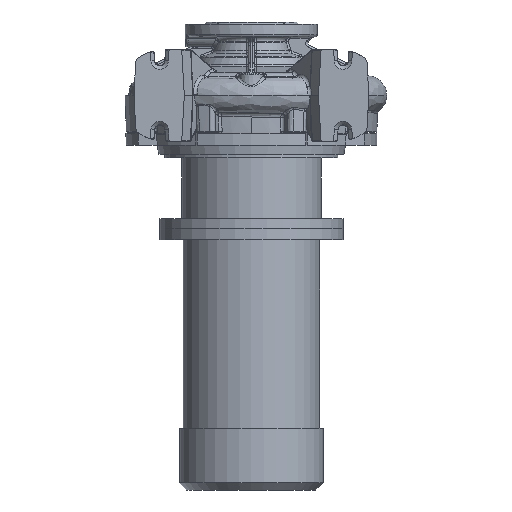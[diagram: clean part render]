
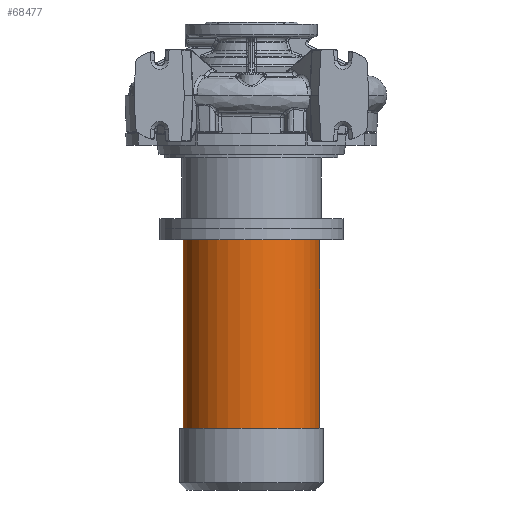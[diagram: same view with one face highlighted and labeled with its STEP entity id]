
A CAD part, front view. The second image highlights one B-rep face of the part: STEP entity #68477.
In plain terms, the highlighted cylindrical face has radius 93 mm (diameter 186 mm), a partial arc.
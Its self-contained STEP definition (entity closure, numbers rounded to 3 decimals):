
#642 = ORIENTED_EDGE ( 'NONE', *, *, #75928, .T. ) ;
#837 = DIRECTION ( 'NONE',  ( -1., 0., 0. ) ) ;
#1803 = VERTEX_POINT ( 'NONE', #12281 ) ;
#3040 = DIRECTION ( 'NONE',  ( 0., 0., -1. ) ) ;
#9452 = CARTESIAN_POINT ( 'NONE',  ( -93., 0., -538. ) ) ;
#9533 = VERTEX_POINT ( 'NONE', #77382 ) ;
#10904 = CARTESIAN_POINT ( 'NONE',  ( -93., 0., -197. ) ) ;
#12281 = CARTESIAN_POINT ( 'NONE',  ( -93., 0., -454. ) ) ;
#14822 = AXIS2_PLACEMENT_3D ( 'NONE', #77968, #15788, #837 ) ;
#15788 = DIRECTION ( 'NONE',  ( 0., 0., -1. ) ) ;
#16804 = CIRCLE ( 'NONE', #18640, 93. ) ;
#17523 = CYLINDRICAL_SURFACE ( 'NONE', #53095, 93. ) ;
#18640 = AXIS2_PLACEMENT_3D ( 'NONE', #66523, #87334, #79465 ) ;
#18908 = LINE ( 'NONE', #9452, #49248 ) ;
#22677 = VECTOR ( 'NONE', #56280, 1000. ) ;
#23526 = DIRECTION ( 'NONE',  ( -1., 0., 0. ) ) ;
#26910 = CARTESIAN_POINT ( 'NONE',  ( 93., 0., -538. ) ) ;
#32432 = CARTESIAN_POINT ( 'NONE',  ( 93., 0., -197. ) ) ;
#35103 = CARTESIAN_POINT ( 'NONE',  ( 0., 0., -538. ) ) ;
#35497 = VERTEX_POINT ( 'NONE', #32432 ) ;
#43850 = DIRECTION ( 'NONE',  ( 0., 0., -1. ) ) ;
#46022 = ORIENTED_EDGE ( 'NONE', *, *, #70266, .F. ) ;
#49248 = VECTOR ( 'NONE', #3040, 1000. ) ;
#49378 = EDGE_CURVE ( 'NONE', #71578, #1803, #18908, .T. ) ;
#53095 = AXIS2_PLACEMENT_3D ( 'NONE', #35103, #43850, #23526 ) ;
#56280 = DIRECTION ( 'NONE',  ( 0., 0., -1. ) ) ;
#63729 = EDGE_CURVE ( 'NONE', #35497, #9533, #85534, .T. ) ;
#66523 = CARTESIAN_POINT ( 'NONE',  ( 0., 0., -197. ) ) ;
#68477 = ADVANCED_FACE ( 'NONE', ( #84735 ), #17523, .T. ) ;
#69532 = EDGE_LOOP ( 'NONE', ( #86196, #642, #80151, #46022 ) ) ;
#70266 = EDGE_CURVE ( 'NONE', #9533, #1803, #70334, .T. ) ;
#70334 = CIRCLE ( 'NONE', #14822, 93. ) ;
#71578 = VERTEX_POINT ( 'NONE', #10904 ) ;
#75928 = EDGE_CURVE ( 'NONE', #35497, #71578, #16804, .T. ) ;
#77382 = CARTESIAN_POINT ( 'NONE',  ( 93., 0., -454. ) ) ;
#77968 = CARTESIAN_POINT ( 'NONE',  ( 0., 0., -454. ) ) ;
#79465 = DIRECTION ( 'NONE',  ( -1., 0., 0. ) ) ;
#80151 = ORIENTED_EDGE ( 'NONE', *, *, #49378, .T. ) ;
#84735 = FACE_OUTER_BOUND ( 'NONE', #69532, .T. ) ;
#85534 = LINE ( 'NONE', #26910, #22677 ) ;
#86196 = ORIENTED_EDGE ( 'NONE', *, *, #63729, .F. ) ;
#87334 = DIRECTION ( 'NONE',  ( 0., 0., -1. ) ) ;
